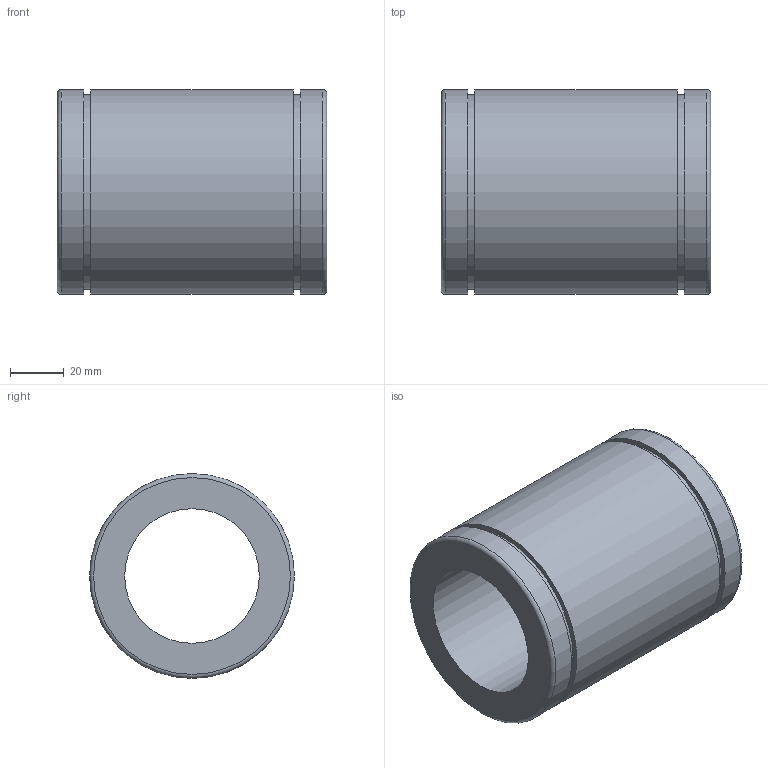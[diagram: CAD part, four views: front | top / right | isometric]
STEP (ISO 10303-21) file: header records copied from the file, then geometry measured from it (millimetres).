
FILE_DESCRIPTION(('STEP AP203'),'1');
FILE_NAME('//192.168.1.1/share/s-4 技術開発/s-4-13_CAD/03_見直し済み/001 修正済み/N-V/N-V_STEP/N-50V.step','2020-04-07T04:39:55',(' '),(' '),'Spatial InterOp 3D',' ',' ');
FILE_SCHEMA(('CONFIG_CONTROL_DESIGN'));
Length unit declared in the file: millimetre
Products named in the file (1): 1
Bounding box: 100 x 76 x 76 mm (x, y, z)
Volume: 254557.1 mm3; surface area: 46212.5 mm2
Topology: 1 solids, 1 shells, 14 faces, 22 edges, 14 vertices
Faces by surface type: plane 6, cylinder 6, torus 2
Full cylindrical faces by diameter (mm): 50 x1, 72 x2, 76 x3
Entity records: 332 total; most frequent: DIRECTION 58, CARTESIAN_POINT 43, AXIS2_PLACEMENT_3D 29, EDGE_LOOP 28, ORIENTED_EDGE 28, FACE_OUTER_BOUND 22, ADVANCED_FACE 14, EDGE_CURVE 14
